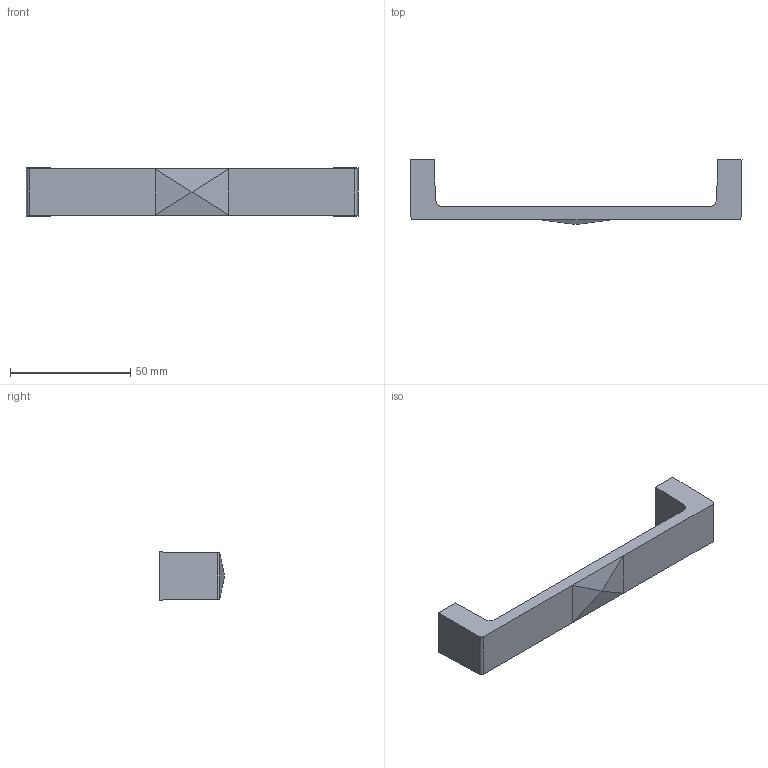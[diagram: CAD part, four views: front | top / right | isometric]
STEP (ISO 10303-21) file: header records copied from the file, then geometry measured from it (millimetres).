
FILE_DESCRIPTION( ( '' ), '1' );
FILE_NAME( 'D:/1.AUTOCAD EXPORT/Group 10/sheet_10_1/115274.stp', '2013-10-17T04:22:24', ( '' ), ( '' ), ' ', ' ', ' ' );
FILE_SCHEMA( ( 'automotive_design' ) );
Length unit declared in the file: millimetre
Products named in the file (1): 1
Bounding box: 138 x 27 x 20 mm (x, y, z)
Volume: 22116 mm3; surface area: 9438.3 mm2
Topology: 1 solids, 1 shells, 25 faces, 58 edges, 37 vertices
Faces by surface type: plane 17, cylinder 8
Entity records: 1407 total; most frequent: DIRECTION 126, STYLED_ITEM 121, PRESENTATION_STYLE_ASSIGNMENT 121, CARTESIAN_POINT 121, COLOUR_RGB 121, ORIENTED_EDGE 116, EDGE_CURVE 58, CURVE_STYLE 58
